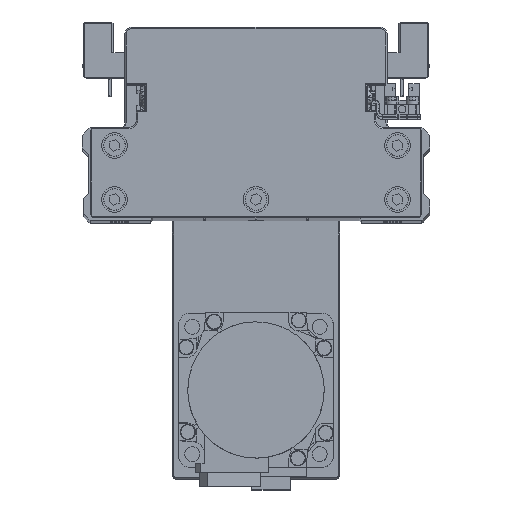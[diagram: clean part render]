
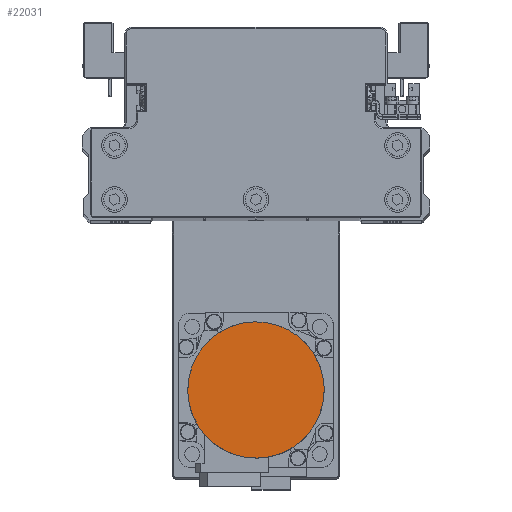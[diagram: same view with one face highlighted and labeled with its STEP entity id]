
A CAD part, top view. The second image highlights one B-rep face of the part: STEP entity #22031.
In plain terms, the highlighted planar face has unit normal (0, 0, 1) as drawn and (0, 0, -1) by its records, which use the part's own axes.
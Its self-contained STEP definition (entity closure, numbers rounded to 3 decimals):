
#983 = B_SPLINE_CURVE_WITH_KNOTS ( 'NONE', 3,
 ( #26483, #38891, #10958, #23438, #35855, #7904, #20391, #32831, #4860, #17328, #29761, #1780, #14227, #26688, #39104, #11179, #23662, #36072, #8113, #20586, #33015, #5038, #17515, #29962, #1999, #14454, #26913, #39323, #11379, #23854, #36251, #8295, #20766, #33207 ),
 .UNSPECIFIED., .F., .F.,
 ( 4, 2, 2, 2, 2, 2, 2, 2, 2, 2, 2, 2, 2, 2, 2, 2, 4 ),
 ( 0., 0.062, 0.125, 0.187, 0.25, 0.312, 0.375, 0.437, 0.5, 0.562, 0.625, 0.687, 0.75, 0.813, 0.875, 0.938, 1. ),
 .UNSPECIFIED. ) ;
#1269 = CARTESIAN_POINT ( 'NONE',  ( 0., 0., -109.7 ) ) ;
#1780 = CARTESIAN_POINT ( 'NONE',  ( 13.28, 22.998, -109.7 ) ) ;
#1999 = CARTESIAN_POINT ( 'NONE',  ( -17.512, 19.965, -109.7 ) ) ;
#2620 = CARTESIAN_POINT ( 'NONE',  ( -26.329, -3.469, -109.7 ) ) ;
#2828 = CARTESIAN_POINT ( 'NONE',  ( -3.469, -26.329, -109.7 ) ) ;
#3016 = CARTESIAN_POINT ( 'NONE',  ( 23.819, -11.744, -109.7 ) ) ;
#4860 = CARTESIAN_POINT ( 'NONE',  ( 19.965, 17.512, -109.7 ) ) ;
#5038 = CARTESIAN_POINT ( 'NONE',  ( -11.744, 23.819, -109.7 ) ) ;
#5871 = CARTESIAN_POINT ( 'NONE',  ( -11.744, -23.819, -109.7 ) ) ;
#6087 = CARTESIAN_POINT ( 'NONE',  ( 19.965, -17.512, -109.7 ) ) ;
#7904 = CARTESIAN_POINT ( 'NONE',  ( 23.819, 11.744, -109.7 ) ) ;
#8113 = CARTESIAN_POINT ( 'NONE',  ( -3.469, 26.329, -109.7 ) ) ;
#8295 = CARTESIAN_POINT ( 'NONE',  ( -26.329, 3.469, -109.7 ) ) ;
#8903 = B_SPLINE_CURVE_WITH_KNOTS ( 'NONE', 3,
 ( #18134, #30581, #2620, #15081, #27530, #39942, #12009, #24474, #36882, #8923, #21396, #33827, #5871, #18343, #30798, #2828, #15286, #27726, #40135, #12196, #24662, #37072, #9130, #21617, #34050, #6087, #18546, #30996, #3016, #15472, #27917, #29617, #12406, #24882 ),
 .UNSPECIFIED., .F., .F.,
 ( 4, 2, 2, 2, 2, 2, 2, 2, 2, 2, 2, 2, 2, 2, 2, 2, 4 ),
 ( 0., 0.063, 0.125, 0.188, 0.25, 0.312, 0.375, 0.437, 0.5, 0.562, 0.625, 0.687, 0.75, 0.813, 0.875, 0.938, 1. ),
 .UNSPECIFIED. ) ;
#8923 = CARTESIAN_POINT ( 'NONE',  ( -17.512, -19.965, -109.7 ) ) ;
#9130 = CARTESIAN_POINT ( 'NONE',  ( 13.28, -22.998, -109.7 ) ) ;
#9454 = ORIENTED_EDGE ( 'NONE', *, *, #12328, .F. ) ;
#10030 = EDGE_CURVE ( 'NONE', #35119, #14226, #8903, .T. ) ;
#10759 = EDGE_LOOP ( 'NONE', ( #9454, #12435 ) ) ;
#10958 = CARTESIAN_POINT ( 'NONE',  ( 26.329, 3.469, -109.7 ) ) ;
#11179 = CARTESIAN_POINT ( 'NONE',  ( 3.469, 26.329, -109.7 ) ) ;
#11379 = CARTESIAN_POINT ( 'NONE',  ( -23.819, 11.744, -109.7 ) ) ;
#12009 = CARTESIAN_POINT ( 'NONE',  ( -22.998, -13.28, -109.7 ) ) ;
#12196 = CARTESIAN_POINT ( 'NONE',  ( 6.871, -25.652, -109.7 ) ) ;
#12328 = EDGE_CURVE ( 'NONE', #14226, #35119, #983, .T. ) ;
#12406 = CARTESIAN_POINT ( 'NONE',  ( 26.5, -1.734, -109.7 ) ) ;
#12435 = ORIENTED_EDGE ( 'NONE', *, *, #10030, .F. ) ;
#13725 = DIRECTION ( 'NONE',  ( 0., 0., 1. ) ) ;
#14226 = VERTEX_POINT ( 'NONE', #37597 ) ;
#14227 = CARTESIAN_POINT ( 'NONE',  ( 11.744, 23.819, -109.7 ) ) ;
#14454 = CARTESIAN_POINT ( 'NONE',  ( -19.965, 17.512, -109.7 ) ) ;
#15081 = CARTESIAN_POINT ( 'NONE',  ( -25.652, -6.871, -109.7 ) ) ;
#15286 = CARTESIAN_POINT ( 'NONE',  ( -1.734, -26.5, -109.7 ) ) ;
#15472 = CARTESIAN_POINT ( 'NONE',  ( 25.147, -8.539, -109.7 ) ) ;
#16796 = FACE_OUTER_BOUND ( 'NONE', #10759, .T. ) ;
#17328 = CARTESIAN_POINT ( 'NONE',  ( 17.512, 19.965, -109.7 ) ) ;
#17515 = CARTESIAN_POINT ( 'NONE',  ( -13.28, 22.998, -109.7 ) ) ;
#18134 = CARTESIAN_POINT ( 'NONE',  ( -26.5, 0., -109.7 ) ) ;
#18343 = CARTESIAN_POINT ( 'NONE',  ( -8.539, -25.147, -109.7 ) ) ;
#18546 = CARTESIAN_POINT ( 'NONE',  ( 21.07, -16.165, -109.7 ) ) ;
#20054 = AXIS2_PLACEMENT_3D ( 'NONE', #1269, #13725, #26191 ) ;
#20391 = CARTESIAN_POINT ( 'NONE',  ( 22.998, 13.28, -109.7 ) ) ;
#20586 = CARTESIAN_POINT ( 'NONE',  ( -6.871, 25.652, -109.7 ) ) ;
#20766 = CARTESIAN_POINT ( 'NONE',  ( -26.5, 1.734, -109.7 ) ) ;
#21396 = CARTESIAN_POINT ( 'NONE',  ( -16.165, -21.07, -109.7 ) ) ;
#21617 = CARTESIAN_POINT ( 'NONE',  ( 16.165, -21.07, -109.7 ) ) ;
#22031 = ADVANCED_FACE ( 'NONE', ( #16796 ), #29239, .F. ) ;
#23438 = CARTESIAN_POINT ( 'NONE',  ( 25.652, 6.871, -109.7 ) ) ;
#23662 = CARTESIAN_POINT ( 'NONE',  ( 1.734, 26.5, -109.7 ) ) ;
#23854 = CARTESIAN_POINT ( 'NONE',  ( -25.147, 8.539, -109.7 ) ) ;
#24474 = CARTESIAN_POINT ( 'NONE',  ( -21.07, -16.165, -109.7 ) ) ;
#24662 = CARTESIAN_POINT ( 'NONE',  ( 8.539, -25.147, -109.7 ) ) ;
#24882 = CARTESIAN_POINT ( 'NONE',  ( 26.5, 0., -109.7 ) ) ;
#26191 = DIRECTION ( 'NONE',  ( 1., 0., 0. ) ) ;
#26483 = CARTESIAN_POINT ( 'NONE',  ( 26.5, 0., -109.7 ) ) ;
#26688 = CARTESIAN_POINT ( 'NONE',  ( 8.539, 25.147, -109.7 ) ) ;
#26913 = CARTESIAN_POINT ( 'NONE',  ( -21.07, 16.165, -109.7 ) ) ;
#27530 = CARTESIAN_POINT ( 'NONE',  ( -25.147, -8.539, -109.7 ) ) ;
#27726 = CARTESIAN_POINT ( 'NONE',  ( 1.734, -26.5, -109.7 ) ) ;
#27917 = CARTESIAN_POINT ( 'NONE',  ( 25.652, -6.871, -109.7 ) ) ;
#29239 = PLANE ( 'NONE',  #20054 ) ;
#29617 = CARTESIAN_POINT ( 'NONE',  ( 26.329, -3.469, -109.7 ) ) ;
#29761 = CARTESIAN_POINT ( 'NONE',  ( 16.165, 21.07, -109.7 ) ) ;
#29962 = CARTESIAN_POINT ( 'NONE',  ( -16.165, 21.07, -109.7 ) ) ;
#30581 = CARTESIAN_POINT ( 'NONE',  ( -26.5, -1.734, -109.7 ) ) ;
#30798 = CARTESIAN_POINT ( 'NONE',  ( -6.871, -25.652, -109.7 ) ) ;
#30996 = CARTESIAN_POINT ( 'NONE',  ( 22.998, -13.28, -109.7 ) ) ;
#32831 = CARTESIAN_POINT ( 'NONE',  ( 21.07, 16.165, -109.7 ) ) ;
#33015 = CARTESIAN_POINT ( 'NONE',  ( -8.539, 25.147, -109.7 ) ) ;
#33207 = CARTESIAN_POINT ( 'NONE',  ( -26.5, 0., -109.7 ) ) ;
#33827 = CARTESIAN_POINT ( 'NONE',  ( -13.28, -22.998, -109.7 ) ) ;
#34050 = CARTESIAN_POINT ( 'NONE',  ( 17.512, -19.965, -109.7 ) ) ;
#35119 = VERTEX_POINT ( 'NONE', #37695 ) ;
#35855 = CARTESIAN_POINT ( 'NONE',  ( 25.147, 8.539, -109.7 ) ) ;
#36072 = CARTESIAN_POINT ( 'NONE',  ( -1.734, 26.5, -109.7 ) ) ;
#36251 = CARTESIAN_POINT ( 'NONE',  ( -25.652, 6.871, -109.7 ) ) ;
#36882 = CARTESIAN_POINT ( 'NONE',  ( -19.965, -17.512, -109.7 ) ) ;
#37072 = CARTESIAN_POINT ( 'NONE',  ( 11.744, -23.819, -109.7 ) ) ;
#37597 = CARTESIAN_POINT ( 'NONE',  ( 26.5, 0., -109.7 ) ) ;
#37695 = CARTESIAN_POINT ( 'NONE',  ( -26.5, 0., -109.7 ) ) ;
#38891 = CARTESIAN_POINT ( 'NONE',  ( 26.5, 1.734, -109.7 ) ) ;
#39104 = CARTESIAN_POINT ( 'NONE',  ( 6.871, 25.652, -109.7 ) ) ;
#39323 = CARTESIAN_POINT ( 'NONE',  ( -22.998, 13.28, -109.7 ) ) ;
#39942 = CARTESIAN_POINT ( 'NONE',  ( -23.819, -11.744, -109.7 ) ) ;
#40135 = CARTESIAN_POINT ( 'NONE',  ( 3.469, -26.329, -109.7 ) ) ;
